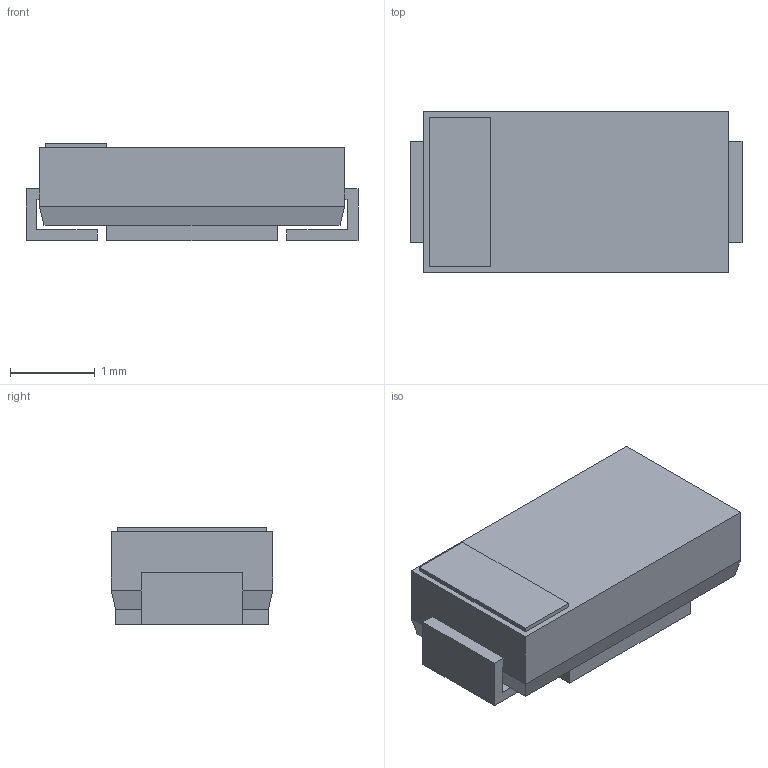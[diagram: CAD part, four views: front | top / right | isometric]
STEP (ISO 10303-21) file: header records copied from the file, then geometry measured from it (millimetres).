
FILE_DESCRIPTION(('STEP AP214'),'1');
FILE_NAME('DIODE_DO219AB_VIS','2021-09-22T01:17:41',(''),(''),'','','');
FILE_SCHEMA(('AUTOMOTIVE_DESIGN'));
Length unit declared in the file: millimetre
Products named in the file (1): product
Bounding box: 3.91 x 1.9 x 1.14 mm (x, y, z)
Volume: 7.3 mm3; surface area: 35.1 mm2
Topology: 4 solids, 4 shells, 42 faces, 94 edges, 60 vertices
Faces by surface type: plane 42
Entity records: 1127 total; most frequent: ORIENTED_EDGE 188, DIRECTION 180, CARTESIAN_POINT 103, EDGE_CURVE 94, LINE 94, VECTOR 94, VERTEX_POINT 60, AXIS2_PLACEMENT_3D 43
